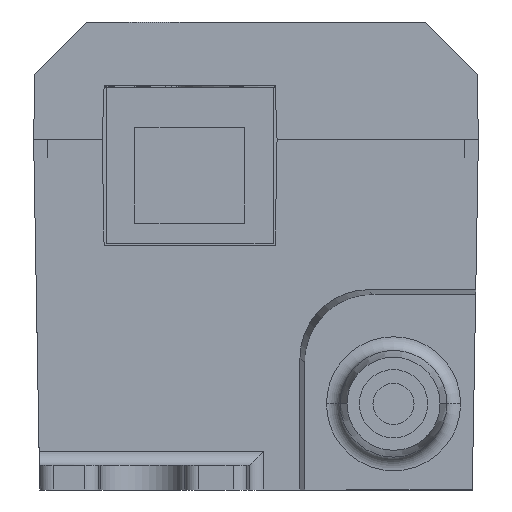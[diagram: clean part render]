
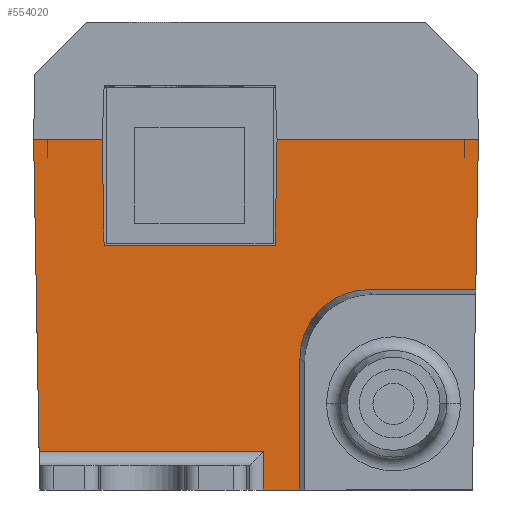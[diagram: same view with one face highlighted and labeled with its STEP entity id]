
A CAD part, left-side view. The second image highlights one B-rep face of the part: STEP entity #554020.
In plain terms, the highlighted planar face has unit normal (-1, 0, 0).
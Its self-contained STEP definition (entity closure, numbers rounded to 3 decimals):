
#510430=CARTESIAN_POINT('',(13.8,-0.009,14.338));
#510440=VERTEX_POINT('',#510430);
#510470=CARTESIAN_POINT('',(13.8,-0.009,14.338));
#510480=DIRECTION('',(0.,-0.017,1.));
#510490=VECTOR('',#510480,1.);
#510500=LINE('',#510470,#510490);
#510510=CARTESIAN_POINT('',(13.8,-0.2,25.3));
#510520=VERTEX_POINT('',#510510);
#510530=EDGE_CURVE('',#510440,#510520,#510500,.T.);
#511800=CARTESIAN_POINT('',(13.8,-0.2,25.3));
#511810=DIRECTION('',(0.,1.,0.));
#511820=VECTOR('',#511810,1.);
#511830=LINE('',#511800,#511820);
#511840=CARTESIAN_POINT('',(13.8,14.512,25.3));
#511850=VERTEX_POINT('',#511840);
#511860=EDGE_CURVE('',#510520,#511850,#511830,.T.);
#520430=CARTESIAN_POINT('',(13.8,15.517,-0.3));
#520440=VERTEX_POINT('',#520430);
#520470=CARTESIAN_POINT('',(13.8,15.517,-0.3));
#520480=DIRECTION('',(0.,-1.,0.));
#520490=VECTOR('',#520480,1.);
#520500=LINE('',#520470,#520490);
#520510=CARTESIAN_POINT('',(13.8,12.838,-0.3));
#520520=VERTEX_POINT('',#520510);
#520530=EDGE_CURVE('',#520440,#520520,#520500,.T.);
#525910=CARTESIAN_POINT('',(13.8,15.517,2.5));
#525920=VERTEX_POINT('',#525910);
#525950=CARTESIAN_POINT('',(13.8,15.517,-0.3));
#525960=DIRECTION('',(0.,0.,1.));
#525970=VECTOR('',#525960,1.);
#525980=LINE('',#525950,#525970);
#525990=EDGE_CURVE('',#520440,#525920,#525980,.T.);
#526100=CARTESIAN_POINT('',(13.8,15.517,2.5));
#526110=DIRECTION('',(0.,1.,0.));
#526120=VECTOR('',#526110,1.);
#526130=LINE('',#526100,#526120);
#526140=CARTESIAN_POINT('',(13.8,31.902,2.5));
#526150=VERTEX_POINT('',#526140);
#526160=EDGE_CURVE('',#525920,#526150,#526130,.T.);
#526350=CARTESIAN_POINT('',(13.8,32.3,25.3));
#526360=DIRECTION('',(0.,-0.017,-1.));
#526370=VECTOR('',#526360,1.);
#526380=LINE('',#526350,#526370);
#526390=CARTESIAN_POINT('',(13.8,32.3,25.3));
#526400=VERTEX_POINT('',#526390);
#526410=EDGE_CURVE('',#526400,#526150,#526380,.T.);
#528050=CARTESIAN_POINT('',(13.8,27.288,25.3));
#528060=VERTEX_POINT('',#528050);
#528110=CARTESIAN_POINT('',(13.8,27.288,25.3));
#528120=DIRECTION('',(0.,1.,0.));
#528130=VECTOR('',#528120,1.);
#528140=LINE('',#528110,#528130);
#528150=EDGE_CURVE('',#528060,#526400,#528140,.T.);
#553310=CARTESIAN_POINT('',(13.8,14.512,25.3));
#553320=DIRECTION('',(0.,0.017,-1.));
#553330=VECTOR('',#553320,1.);
#553340=LINE('',#553310,#553330);
#553350=CARTESIAN_POINT('',(13.8,14.646,17.6));
#553360=VERTEX_POINT('',#553350);
#553370=EDGE_CURVE('',#511850,#553360,#553340,.T.);
#553500=CARTESIAN_POINT('',(13.8,16.5,0.));
#553510=DIRECTION('',(1.,0.,0.));
#553520=DIRECTION('',(0.,1.,0.));
#553530=AXIS2_PLACEMENT_3D('',#553500,#553510,#553520);
#553540=PLANE('',#553530);
#553550=ORIENTED_EDGE('',*,*,#528150,.T.);
#553560=CARTESIAN_POINT('',(13.8,27.154,17.6));
#553570=DIRECTION('',(0.,0.017,1.));
#553580=VECTOR('',#553570,1.);
#553590=LINE('',#553560,#553580);
#553600=CARTESIAN_POINT('',(13.8,27.154,17.6));
#553610=VERTEX_POINT('',#553600);
#553620=EDGE_CURVE('',#553610,#528060,#553590,.T.);
#553630=ORIENTED_EDGE('',*,*,#553620,.T.);
#553640=CARTESIAN_POINT('',(13.8,27.154,17.6));
#553650=DIRECTION('',(0.,-1.,0.));
#553660=VECTOR('',#553650,1.);
#553670=LINE('',#553640,#553660);
#553680=EDGE_CURVE('',#553610,#553360,#553670,.T.);
#553690=ORIENTED_EDGE('',*,*,#553680,.F.);
#553700=ORIENTED_EDGE('',*,*,#553370,.T.);
#553710=ORIENTED_EDGE('',*,*,#511860,.T.);
#553720=ORIENTED_EDGE('',*,*,#510530,.T.);
#553730=CARTESIAN_POINT('',(13.8,7.839,14.338));
#553740=DIRECTION('',(0.,-1.,0.));
#553750=VECTOR('',#553740,1.);
#553760=LINE('',#553730,#553750);
#553770=CARTESIAN_POINT('',(13.8,7.839,14.338));
#553780=VERTEX_POINT('',#553770);
#553790=EDGE_CURVE('',#553780,#510440,#553760,.T.);
#553800=ORIENTED_EDGE('',*,*,#553790,.T.);
#553810=CARTESIAN_POINT('',(13.8,7.837,9.337));
#553820=DIRECTION('',(-1.,0.,0.));
#553830=DIRECTION('',(0.,0.707,0.707));
#553840=AXIS2_PLACEMENT_3D('',#553810,#553820,#553830);
#553850=ELLIPSE('',#553840,5.002,5.);
#553860=CARTESIAN_POINT('',(13.8,12.838,9.339));
#553870=VERTEX_POINT('',#553860);
#553880=EDGE_CURVE('',#553780,#553870,#553850,.T.);
#553890=ORIENTED_EDGE('',*,*,#553880,.F.);
#553900=CARTESIAN_POINT('',(13.8,12.838,9.339));
#553910=DIRECTION('',(0.,0.,-1.));
#553920=VECTOR('',#553910,1.);
#553930=LINE('',#553900,#553920);
#553940=EDGE_CURVE('',#553870,#520520,#553930,.T.);
#553950=ORIENTED_EDGE('',*,*,#553940,.F.);
#553960=ORIENTED_EDGE('',*,*,#520530,.T.);
#553970=ORIENTED_EDGE('',*,*,#525990,.F.);
#553980=ORIENTED_EDGE('',*,*,#526160,.F.);
#553990=ORIENTED_EDGE('',*,*,#526410,.T.);
#554000=EDGE_LOOP('',(#553990,#553980,#553970,#553960,#553950,#553890,
#553800,#553720,#553710,#553700,#553690,#553630,#553550));
#554010=FACE_OUTER_BOUND('',#554000,.T.);
#554020=ADVANCED_FACE('',(#554010),#553540,.F.);
